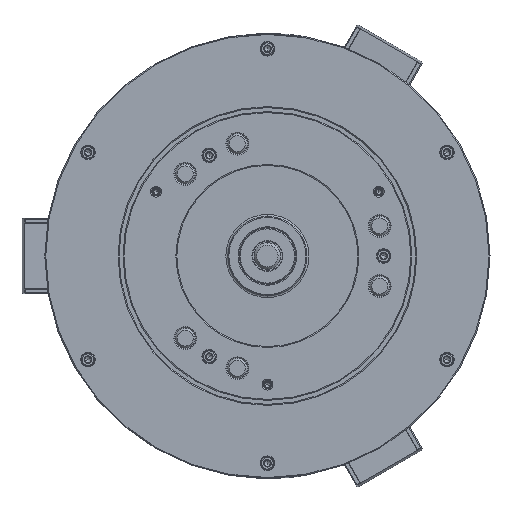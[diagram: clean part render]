
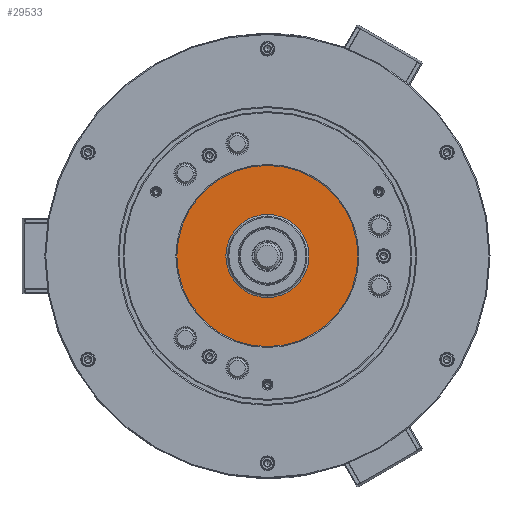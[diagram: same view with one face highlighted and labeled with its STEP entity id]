
A CAD part, left-side view. The second image highlights one B-rep face of the part: STEP entity #29533.
In plain terms, the highlighted planar face has unit normal (-1, 0, 0).
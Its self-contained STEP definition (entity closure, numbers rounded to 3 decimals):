
#487 = DIRECTION ( 'NONE',  ( 0., 0., -1. ) ) ;
#2950 = VERTEX_POINT ( 'NONE', #4480 ) ;
#4076 = DIRECTION ( 'NONE',  ( 0., 0., 1. ) ) ;
#4170 = AXIS2_PLACEMENT_3D ( 'NONE', #119829, #19481, #64225 ) ;
#4480 = CARTESIAN_POINT ( 'NONE',  ( -111.5, 0., -42. ) ) ;
#7433 = EDGE_CURVE ( 'NONE', #109740, #126738, #29957, .T. ) ;
#10906 = ORIENTED_EDGE ( 'NONE', *, *, #7433, .T. ) ;
#14584 = CARTESIAN_POINT ( 'NONE',  ( -111.5, 0., 0. ) ) ;
#19481 = DIRECTION ( 'NONE',  ( -1., 0., 0. ) ) ;
#22465 = PLANE ( 'NONE',  #116070 ) ;
#25380 = EDGE_CURVE ( 'NONE', #126738, #109740, #28913, .T. ) ;
#26314 = DIRECTION ( 'NONE',  ( 0., 0., 1. ) ) ;
#28913 = CIRCLE ( 'NONE', #43019, 91.54 ) ;
#29533 = ADVANCED_FACE ( 'NONE', ( #122815, #111830 ), #22465, .F. ) ;
#29957 = CIRCLE ( 'NONE', #4170, 91.54 ) ;
#32333 = DIRECTION ( 'NONE',  ( 0., 0., 1. ) ) ;
#43019 = AXIS2_PLACEMENT_3D ( 'NONE', #116903, #94946, #4076 ) ;
#55024 = DIRECTION ( 'NONE',  ( -1., 0., 0. ) ) ;
#56174 = CARTESIAN_POINT ( 'NONE',  ( -111.5, 91.54, 0. ) ) ;
#59323 = AXIS2_PLACEMENT_3D ( 'NONE', #132649, #55024, #32333 ) ;
#64225 = DIRECTION ( 'NONE',  ( 0., 0., 1. ) ) ;
#69644 = ORIENTED_EDGE ( 'NONE', *, *, #25380, .T. ) ;
#71088 = EDGE_LOOP ( 'NONE', ( #71659, #111147 ) ) ;
#71659 = ORIENTED_EDGE ( 'NONE', *, *, #124833, .F. ) ;
#82118 = CIRCLE ( 'NONE', #100866, 42. ) ;
#87764 = CARTESIAN_POINT ( 'NONE',  ( -111.5, 0., 42. ) ) ;
#94946 = DIRECTION ( 'NONE',  ( -1., 0., 0. ) ) ;
#98426 = CARTESIAN_POINT ( 'NONE',  ( -111.5, 0., -91.54 ) ) ;
#100845 = DIRECTION ( 'NONE',  ( 1., 0., 0. ) ) ;
#100866 = AXIS2_PLACEMENT_3D ( 'NONE', #14584, #137639, #26314 ) ;
#108184 = VERTEX_POINT ( 'NONE', #87764 ) ;
#109740 = VERTEX_POINT ( 'NONE', #98426 ) ;
#111147 = ORIENTED_EDGE ( 'NONE', *, *, #116307, .F. ) ;
#111830 = FACE_OUTER_BOUND ( 'NONE', #124541, .T. ) ;
#116070 = AXIS2_PLACEMENT_3D ( 'NONE', #56174, #100845, #487 ) ;
#116307 = EDGE_CURVE ( 'NONE', #2950, #108184, #82118, .T. ) ;
#116903 = CARTESIAN_POINT ( 'NONE',  ( -111.5, 0., 0. ) ) ;
#119829 = CARTESIAN_POINT ( 'NONE',  ( -111.5, 0., 0. ) ) ;
#120141 = CARTESIAN_POINT ( 'NONE',  ( -111.5, 0., 91.54 ) ) ;
#122815 = FACE_BOUND ( 'NONE', #71088, .T. ) ;
#124541 = EDGE_LOOP ( 'NONE', ( #69644, #10906 ) ) ;
#124833 = EDGE_CURVE ( 'NONE', #108184, #2950, #141191, .T. ) ;
#126738 = VERTEX_POINT ( 'NONE', #120141 ) ;
#132649 = CARTESIAN_POINT ( 'NONE',  ( -111.5, 0., 0. ) ) ;
#137639 = DIRECTION ( 'NONE',  ( -1., 0., 0. ) ) ;
#141191 = CIRCLE ( 'NONE', #59323, 42. ) ;
